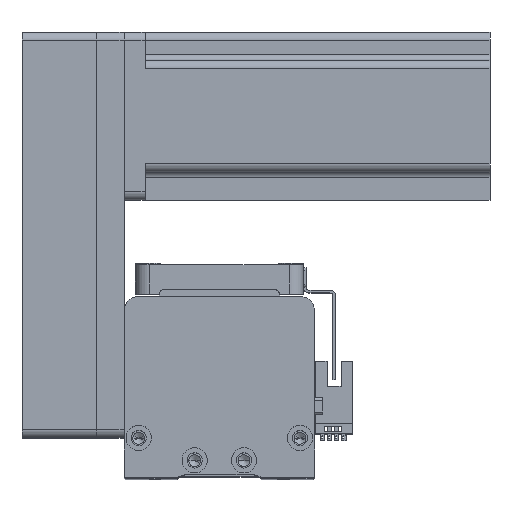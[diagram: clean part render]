
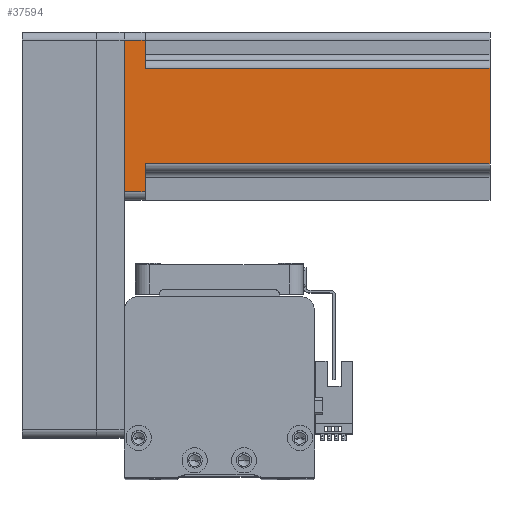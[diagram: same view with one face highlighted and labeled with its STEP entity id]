
A CAD part, top view. The second image highlights one B-rep face of the part: STEP entity #37594.
In plain terms, the highlighted planar face has unit normal (0, 0, 1) as drawn and (0, 1, 0) by its records, which use the part's own axes.
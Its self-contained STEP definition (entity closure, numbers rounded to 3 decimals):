
#758 = VERTEX_POINT ( 'NONE', #35634 ) ;
#1307 = EDGE_CURVE ( 'NONE', #15292, #13782, #42140, .T. ) ;
#1355 = EDGE_CURVE ( 'NONE', #27921, #15281, #28066, .T. ) ;
#1409 = EDGE_CURVE ( 'NONE', #18484, #15281, #18200, .T. ) ;
#1469 = EDGE_CURVE ( 'NONE', #18484, #758, #26494, .T. ) ;
#2881 = EDGE_CURVE ( 'NONE', #39352, #15292, #9084, .T. ) ;
#2990 = LINE ( 'NONE', #38304, #23751 ) ;
#3185 = DIRECTION ( 'NONE',  ( 1., 0., 0. ) ) ;
#3350 = DIRECTION ( 'NONE',  ( 0., 0., -1. ) ) ;
#4172 = CARTESIAN_POINT ( 'NONE',  ( 17., 30., 130.7 ) ) ;
#5478 = CARTESIAN_POINT ( 'NONE',  ( 30., 30., 130.7 ) ) ;
#5822 = ORIENTED_EDGE ( 'NONE', *, *, #1469, .T. ) ;
#5957 = DIRECTION ( 'NONE',  ( 0., 0., 1. ) ) ;
#7154 = AXIS2_PLACEMENT_3D ( 'NONE', #38018, #18070, #41340 ) ;
#7480 = DIRECTION ( 'NONE',  ( 0., 0., -1. ) ) ;
#8368 = ORIENTED_EDGE ( 'NONE', *, *, #1307, .T. ) ;
#8636 = DIRECTION ( 'NONE',  ( -1., 0., 0. ) ) ;
#8774 = VECTOR ( 'NONE', #3350, 1000. ) ;
#9084 = LINE ( 'NONE', #23083, #10113 ) ;
#9194 = EDGE_LOOP ( 'NONE', ( #29516, #8368, #28352, #28631, #39450, #5822, #26815, #13037 ) ) ;
#10113 = VECTOR ( 'NONE', #3185, 1000. ) ;
#10345 = FACE_OUTER_BOUND ( 'NONE', #9194, .T. ) ;
#10352 = VECTOR ( 'NONE', #37765, 1000. ) ;
#12984 = LINE ( 'NONE', #5478, #37444 ) ;
#13037 = ORIENTED_EDGE ( 'NONE', *, *, #40222, .T. ) ;
#13731 = VECTOR ( 'NONE', #5957, 1000. ) ;
#13755 = CARTESIAN_POINT ( 'NONE',  ( -17., 30., 130.7 ) ) ;
#13782 = VERTEX_POINT ( 'NONE', #37026 ) ;
#13893 = DIRECTION ( 'NONE',  ( 0., 0., 1. ) ) ;
#14473 = CARTESIAN_POINT ( 'NONE',  ( 20., 30., 7.5 ) ) ;
#15281 = VERTEX_POINT ( 'NONE', #16625 ) ;
#15292 = VERTEX_POINT ( 'NONE', #33172 ) ;
#16399 = CARTESIAN_POINT ( 'NONE',  ( 27., 30., 130.7 ) ) ;
#16624 = CARTESIAN_POINT ( 'NONE',  ( -27., 30., 7.5 ) ) ;
#16625 = CARTESIAN_POINT ( 'NONE',  ( 17., 30., 7.5 ) ) ;
#18070 = DIRECTION ( 'NONE',  ( 0., -1., 0. ) ) ;
#18200 = LINE ( 'NONE', #14473, #10352 ) ;
#18484 = VERTEX_POINT ( 'NONE', #24687 ) ;
#19266 = VECTOR ( 'NONE', #7480, 1000. ) ;
#20425 = EDGE_CURVE ( 'NONE', #27921, #13782, #12984, .T. ) ;
#20814 = VERTEX_POINT ( 'NONE', #35081 ) ;
#23083 = CARTESIAN_POINT ( 'NONE',  ( -20., 30., 7.5 ) ) ;
#23751 = VECTOR ( 'NONE', #41634, 1000. ) ;
#24615 = PLANE ( 'NONE',  #7154 ) ;
#24687 = CARTESIAN_POINT ( 'NONE',  ( 27., 30., 7.5 ) ) ;
#26494 = LINE ( 'NONE', #16399, #8774 ) ;
#26780 = EDGE_CURVE ( 'NONE', #758, #20814, #2990, .T. ) ;
#26815 = ORIENTED_EDGE ( 'NONE', *, *, #26780, .T. ) ;
#27921 = VERTEX_POINT ( 'NONE', #36630 ) ;
#28066 = LINE ( 'NONE', #4172, #19266 ) ;
#28352 = ORIENTED_EDGE ( 'NONE', *, *, #20425, .F. ) ;
#28631 = ORIENTED_EDGE ( 'NONE', *, *, #1355, .T. ) ;
#29217 = CARTESIAN_POINT ( 'NONE',  ( -27., 30., 130.7 ) ) ;
#29516 = ORIENTED_EDGE ( 'NONE', *, *, #2881, .T. ) ;
#33172 = CARTESIAN_POINT ( 'NONE',  ( -17., 30., 7.5 ) ) ;
#35081 = CARTESIAN_POINT ( 'NONE',  ( -27., 30., 0. ) ) ;
#35634 = CARTESIAN_POINT ( 'NONE',  ( 27., 30., 0. ) ) ;
#36630 = CARTESIAN_POINT ( 'NONE',  ( 17., 30., 130.7 ) ) ;
#37026 = CARTESIAN_POINT ( 'NONE',  ( -17., 30., 130.7 ) ) ;
#37444 = VECTOR ( 'NONE', #8636, 1000. ) ;
#37594 = ADVANCED_FACE ( 'NONE', ( #10345 ), #24615, .F. ) ;
#37765 = DIRECTION ( 'NONE',  ( -1., 0., 0. ) ) ;
#38018 = CARTESIAN_POINT ( 'NONE',  ( 30., 30., 130.7 ) ) ;
#38304 = CARTESIAN_POINT ( 'NONE',  ( 30., 30., 0. ) ) ;
#39258 = LINE ( 'NONE', #29217, #13731 ) ;
#39352 = VERTEX_POINT ( 'NONE', #16624 ) ;
#39450 = ORIENTED_EDGE ( 'NONE', *, *, #1409, .F. ) ;
#40222 = EDGE_CURVE ( 'NONE', #20814, #39352, #39258, .T. ) ;
#41084 = VECTOR ( 'NONE', #13893, 1000. ) ;
#41340 = DIRECTION ( 'NONE',  ( 1., 0., 0. ) ) ;
#41634 = DIRECTION ( 'NONE',  ( -1., 0., 0. ) ) ;
#42140 = LINE ( 'NONE', #13755, #41084 ) ;
